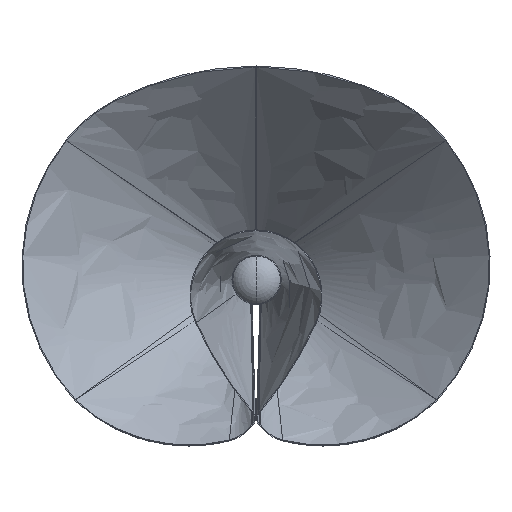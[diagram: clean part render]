
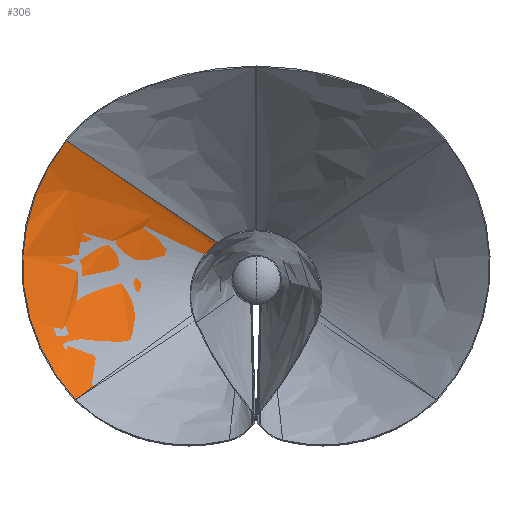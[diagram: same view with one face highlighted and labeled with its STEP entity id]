
A CAD part, front view. The second image highlights one B-rep face of the part: STEP entity #306.
In plain terms, the highlighted free-form (B-spline) face has degree [3, 1] with [6, 2] control points.
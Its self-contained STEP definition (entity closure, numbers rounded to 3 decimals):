
#79 = CARTESIAN_POINT ( 'NONE',  ( -109.623, 165.258, -18.986 ) ) ;
#120 = CARTESIAN_POINT ( 'NONE',  ( -268.268, 34.956, 8.498 ) ) ;
#159 = CARTESIAN_POINT ( 'NONE',  ( -11.733, 308.511, 47.136 ) ) ;
#161 = CIRCLE ( 'NONE', #2339, 234.645 ) ;
#270 = EDGE_CURVE ( 'NONE', #5439, #675, #1258, .T. ) ;
#306 = ADVANCED_FACE ( 'NONE', ( #3682 ), #2834, .F. ) ;
#466 = CARTESIAN_POINT ( 'NONE',  ( -5.315, 308.511, 66.552 ) ) ;
#574 = CARTESIAN_POINT ( 'NONE',  ( -10.093, 309.9, 46.78 ) ) ;
#675 = VERTEX_POINT ( 'NONE', #3742 ) ;
#721 = VERTEX_POINT ( 'NONE', #4612 ) ;
#964 = CARTESIAN_POINT ( 'NONE',  ( -1.254, 308.511, 67.428 ) ) ;
#1043 = CARTESIAN_POINT ( 'NONE',  ( -13.179, 308.511, 50.404 ) ) ;
#1075 = CARTESIAN_POINT ( 'NONE',  ( -10.202, 308.511, 63.195 ) ) ;
#1097 = CARTESIAN_POINT ( 'NONE',  ( -11.408, 308.511, 46.632 ) ) ;
#1184 = DIRECTION ( 'NONE',  ( 0., -0.152, -0.988 ) ) ;
#1258 = LINE ( 'NONE', #79, #4865 ) ;
#1285 = EDGE_CURVE ( 'NONE', #721, #3067, #3031, .T. ) ;
#1411 = EDGE_CURVE ( 'NONE', #721, #675, #5862, .T. ) ;
#1872 = CARTESIAN_POINT ( 'NONE',  ( -219.486, 66.794, 215.512 ) ) ;
#1908 = VECTOR ( 'NONE', #5534, 1000. ) ;
#1917 = DIRECTION ( 'NONE',  ( 0.531, 0.771, 0.351 ) ) ;
#1954 = CARTESIAN_POINT ( 'NONE',  ( -12.951, 308.511, 58.626 ) ) ;
#1973 = CARTESIAN_POINT ( 'NONE',  ( -8.429, 308.511, 64.804 ) ) ;
#2164 = DIRECTION ( 'NONE',  ( 0., -0.988, 0.152 ) ) ;
#2299 = ORIENTED_EDGE ( 'NONE', *, *, #1285, .T. ) ;
#2327 = CARTESIAN_POINT ( 'NONE',  ( -254.091, 60.163, 172.393 ) ) ;
#2339 = AXIS2_PLACEMENT_3D ( 'NONE', #2563, #2164, #1184 ) ;
#2384 = CARTESIAN_POINT ( 'NONE',  ( -4.688, 309.9, 66.577 ) ) ;
#2392 = CARTESIAN_POINT ( 'NONE',  ( -13.754, 308.511, 53.939 ) ) ;
#2409 = CARTESIAN_POINT ( 'NONE',  ( -10.966, 308.511, 62.286 ) ) ;
#2424 = CARTESIAN_POINT ( 'NONE',  ( -13.297, 308.511, 57.49 ) ) ;
#2443 = CARTESIAN_POINT ( 'NONE',  ( -12.316, 308.511, 48.19 ) ) ;
#2563 = CARTESIAN_POINT ( 'NONE',  ( -35.652, 44.629, 71.387 ) ) ;
#2780 = CARTESIAN_POINT ( 'NONE',  ( -12.847, 309.9, 50.574 ) ) ;
#2789 = CARTESIAN_POINT ( 'NONE',  ( -6.939, 308.511, 65.78 ) ) ;
#2828 = CARTESIAN_POINT ( 'NONE',  ( -13.24, 309.9, 55.594 ) ) ;
#2834 = B_SPLINE_SURFACE_WITH_KNOTS ( 'NONE', 3, 1, ( 
 ( #4669, #1872 ),
 ( #2384, #2327 ),
 ( #3267, #5062 ),
 ( #2828, #120 ),
 ( #2780, #5527 ),
 ( #574, #5558 ) ),
 .UNSPECIFIED., .F., .F., .F.,
 ( 4, 2, 4 ),
 ( 2, 2 ),
 ( 0., 0.5, 1. ),
 ( 0., 1. ),
 .UNSPECIFIED. ) ;
#2850 = CARTESIAN_POINT ( 'NONE',  ( -8.899, 308.511, 64.433 ) ) ;
#2890 = CARTESIAN_POINT ( 'NONE',  ( -13.566, 308.511, 52.158 ) ) ;
#3031 = LINE ( 'NONE', #5456, #1908 ) ;
#3067 = VERTEX_POINT ( 'NONE', #5121 ) ;
#3267 = CARTESIAN_POINT ( 'NONE',  ( -8.982, 309.9, 63.947 ) ) ;
#3330 = CARTESIAN_POINT ( 'NONE',  ( -11.316, 308.511, 61.806 ) ) ;
#3682 = FACE_OUTER_BOUND ( 'NONE', #5273, .T. ) ;
#3742 = CARTESIAN_POINT ( 'NONE',  ( -11.049, 308.511, 46.148 ) ) ;
#3780 = CARTESIAN_POINT ( 'NONE',  ( -12.569, 308.511, 48.731 ) ) ;
#3819 = CARTESIAN_POINT ( 'NONE',  ( -9.789, 308.511, 63.625 ) ) ;
#4072 = ORIENTED_EDGE ( 'NONE', *, *, #1411, .F. ) ;
#4170 = CARTESIAN_POINT ( 'NONE',  ( -2.456, 308.511, 67.361 ) ) ;
#4241 = CARTESIAN_POINT ( 'NONE',  ( -7.45, 308.511, 65.477 ) ) ;
#4442 = EDGE_CURVE ( 'NONE', #3067, #5439, #161, .T. ) ;
#4596 = CARTESIAN_POINT ( 'NONE',  ( -5.874, 308.511, 66.317 ) ) ;
#4612 = CARTESIAN_POINT ( 'NONE',  ( -1.254, 308.511, 67.428 ) ) ;
#4669 = CARTESIAN_POINT ( 'NONE',  ( 0., 309.9, 66.577 ) ) ;
#4677 = CARTESIAN_POINT ( 'NONE',  ( -12.244, 308.511, 60.265 ) ) ;
#4696 = ORIENTED_EDGE ( 'NONE', *, *, #4442, .T. ) ;
#4861 = ORIENTED_EDGE ( 'NONE', *, *, #270, .T. ) ;
#4865 = VECTOR ( 'NONE', #1917, 1000. ) ;
#5054 = CARTESIAN_POINT ( 'NONE',  ( -3.622, 308.511, 67.132 ) ) ;
#5062 = CARTESIAN_POINT ( 'NONE',  ( -272.054, 51.876, 118.508 ) ) ;
#5099 = CARTESIAN_POINT ( 'NONE',  ( -13.433, 308.511, 56.906 ) ) ;
#5117 = CARTESIAN_POINT ( 'NONE',  ( -12.74, 308.511, 59.181 ) ) ;
#5121 = CARTESIAN_POINT ( 'NONE',  ( -219.486, 66.794, 215.512 ) ) ;
#5133 = CARTESIAN_POINT ( 'NONE',  ( -13.462, 308.511, 51.562 ) ) ;
#5154 = CARTESIAN_POINT ( 'NONE',  ( -11.955, 308.511, 60.797 ) ) ;
#5273 = EDGE_LOOP ( 'NONE', ( #4072, #2299, #4696, #4861 ) ) ;
#5439 = VERTEX_POINT ( 'NONE', #5701 ) ;
#5456 = CARTESIAN_POINT ( 'NONE',  ( -109.743, 188.347, 141.044 ) ) ;
#5527 = CARTESIAN_POINT ( 'NONE',  ( -246.642, 26.874, -44.056 ) ) ;
#5534 = DIRECTION ( 'NONE',  ( -0.61, -0.676, 0.414 ) ) ;
#5558 = CARTESIAN_POINT ( 'NONE',  ( -209.153, 20.615, -84.751 ) ) ;
#5568 = CARTESIAN_POINT ( 'NONE',  ( -13.001, 308.511, 49.837 ) ) ;
#5589 = CARTESIAN_POINT ( 'NONE',  ( -11.049, 308.511, 46.148 ) ) ;
#5604 = CARTESIAN_POINT ( 'NONE',  ( -13.723, 308.511, 55.126 ) ) ;
#5701 = CARTESIAN_POINT ( 'NONE',  ( -209.153, 20.615, -84.751 ) ) ;
#5862 = B_SPLINE_CURVE_WITH_KNOTS ( 'NONE', 3,
 ( #964, #4170, #5054, #466, #4596, #2789, #4241, #1973, #2850, #3819, #1075, #2409, #3330, #5154, #4677, #5117, #1954, #2424, #5099, #5604, #2392, #2890, #5133, #1043, #5568, #3780, #2443, #159, #1097, #5589 ),
 .UNSPECIFIED., .F., .F.,
 ( 4, 2, 2, 2, 2, 2, 2, 2, 2, 2, 2, 2, 2, 2, 4 ),
 ( 0., 0.004, 0.005, 0.007, 0.009, 0.011, 0.012, 0.014, 0.016, 0.018, 0.021, 0.023, 0.025, 0.027, 0.028 ),
 .UNSPECIFIED. ) ;
